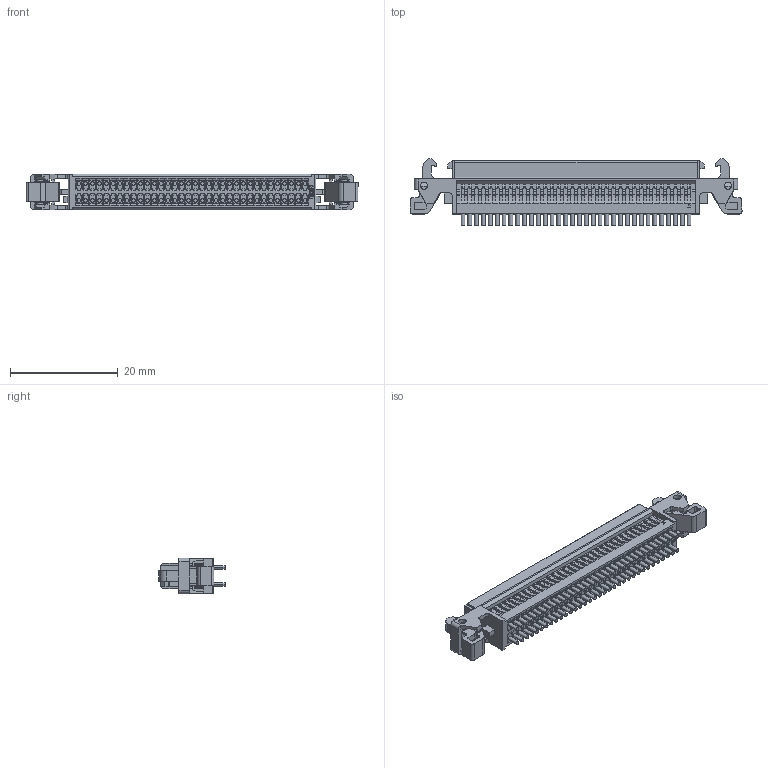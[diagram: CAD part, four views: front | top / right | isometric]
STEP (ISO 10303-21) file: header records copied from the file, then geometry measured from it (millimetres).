
FILE_DESCRIPTION(('Creo Elements/Direct Modeling STEP Export'),'2;1');
FILE_NAME('P3C988_8929E-068.stp','2017-10-13T14:11:48',(''),(''),'Creo Elements/Direct Modeling STEP processor for AP214 (Solid Model)','Creo Elements/Direct Modeling 19.0F 14-Feb-2017 (C) Parametric Technology GmbH','');
FILE_SCHEMA(('AUTOMOTIVE_DESIGN { 1 0 10303 214 1 1 1 1 }'));
Products named in the file (2): 8929E-068
Assembly tree (1 placements, depth 2):
  8929E-068
    8929E-068
Bounding box: 61.51 x 12.25 x 6.6 mm (x, y, z)
Volume: 2440.3 mm3; surface area: 3207.9 mm2
Topology: 1 solids, 1 shells, 3125 faces, 8316 edges, 5492 vertices
Faces by surface type: plane 2523, cylinder 594, torus 8
Entity records: 95527 total; most frequent: CARTESIAN_POINT 17522, ORIENTED_EDGE 16632, DIRECTION 15225, EDGE_CURVE 8316, VECTOR 7039, LINE 7039, VERTEX_POINT 5492, AXIS2_PLACEMENT_3D 4093
